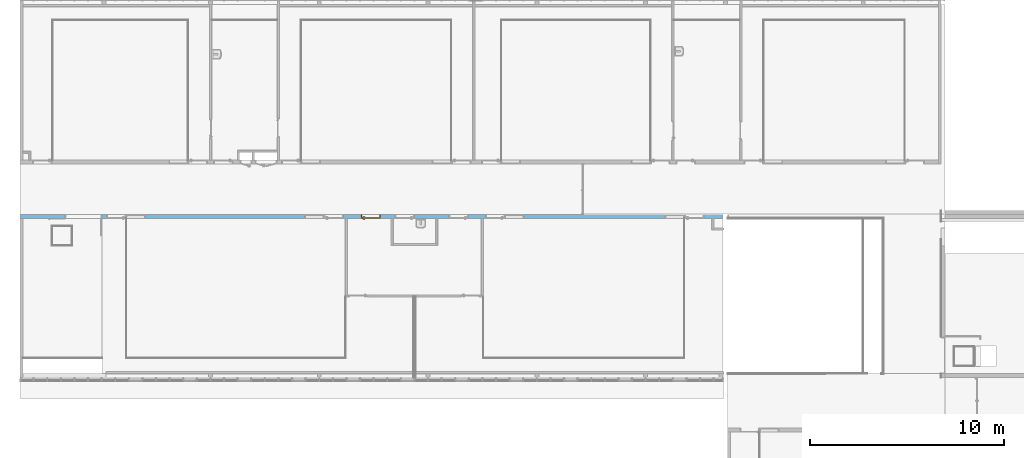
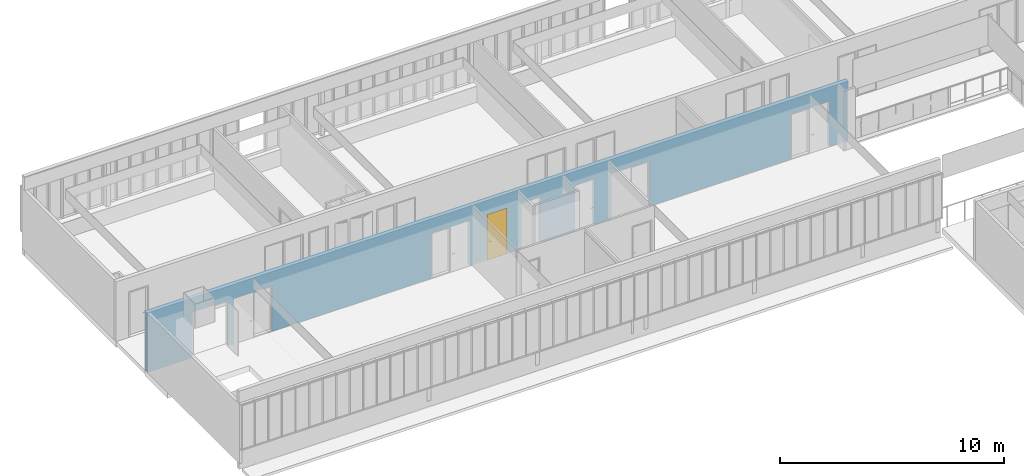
# One storey, part 32 of 87: 1 door, 12 openings, plus 1 element that does not belong to this part.
"""IFC2X3 building model written with IfcOpenShell, lengths in centimetres."""

from ifc_helpers import new_model, entity, si_unit, converted_unit, derived_unit, direction, frame, frame_2d, origin, place, context, subcontext, project, spatial, rectangle, extrude, faceted_brep, source, transform, mapped, material, material_list, layer, layer_set, layer_usage, type_object, type_shapes, element, fill, save


model = new_model("IFC2X3")

# Units and contexts
model_context = context("Model", 3, precision=0.001, world=origin(), true_north=direction((6.12303176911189e-17, 1.0)))
body_context = subcontext(model_context, "Body", "Model", "MODEL_VIEW")
ifc_project = project(units=[si_unit("LENGTHUNIT", "METRE", prefix="CENTI"), si_unit("AREAUNIT", "SQUARE_METRE"), si_unit("VOLUMEUNIT", "CUBIC_METRE"), converted_unit("PLANEANGLEUNIT", "DEGREE", entity("IfcRatioMeasure", 0.0174532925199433), si_unit("PLANEANGLEUNIT", "RADIAN"), dimensions=[0, 0, 0, 0, 0, 0, 0]), si_unit("MASSUNIT", "GRAM", prefix="KILO"), derived_unit("MASSDENSITYUNIT", [(si_unit("MASSUNIT", "GRAM", prefix="KILO"), 1), (si_unit("LENGTHUNIT", "METRE"), -3)]), si_unit("TIMEUNIT", "SECOND"), si_unit("FREQUENCYUNIT", "HERTZ"), si_unit("THERMODYNAMICTEMPERATUREUNIT", "DEGREE_CELSIUS"), derived_unit("THERMALTRANSMITTANCEUNIT", [(si_unit("MASSUNIT", "GRAM", prefix="KILO"), 1), (si_unit("THERMODYNAMICTEMPERATUREUNIT", "KELVIN"), -1), (si_unit("TIMEUNIT", "SECOND"), -3)]), derived_unit("VOLUMETRICFLOWRATEUNIT", [(si_unit("LENGTHUNIT", "METRE"), 3), (si_unit("TIMEUNIT", "SECOND"), -1)]), si_unit("ELECTRICCURRENTUNIT", "AMPERE"), si_unit("ELECTRICVOLTAGEUNIT", "VOLT"), si_unit("POWERUNIT", "WATT"), si_unit("FORCEUNIT", "NEWTON", prefix="KILO"), si_unit("ILLUMINANCEUNIT", "LUX"), si_unit("LUMINOUSFLUXUNIT", "LUMEN"), si_unit("LUMINOUSINTENSITYUNIT", "CANDELA"), derived_unit("USERDEFINED", [(si_unit("MASSUNIT", "GRAM", prefix="KILO"), -1), (si_unit("LENGTHUNIT", "METRE"), -2), (si_unit("TIMEUNIT", "SECOND"), 3), (si_unit("LUMINOUSFLUXUNIT", "LUMEN"), 1)]), derived_unit("LINEARVELOCITYUNIT", [(si_unit("LENGTHUNIT", "METRE"), 1), (si_unit("TIMEUNIT", "SECOND"), -1)]), si_unit("PRESSUREUNIT", "PASCAL"), derived_unit("USERDEFINED", [(si_unit("LENGTHUNIT", "METRE"), -2), (si_unit("MASSUNIT", "GRAM", prefix="KILO"), 1), (si_unit("TIMEUNIT", "SECOND"), -2)])], contexts=[model_context])

# Site, building, storey
site_placement = place(None, frame((-2781.94577612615, 7442.24238424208, 0.0)))
site = spatial("IfcSite", under=ifc_project, at=site_placement, Name="Default", CompositionType="ELEMENT")
building_placement = place(site_placement, origin())
building = spatial("IfcBuilding", under=site, at=building_placement, CompositionType="ELEMENT")
storey_placement = place(building_placement, frame((0.0, 0.0, 774.0)))
storey = spatial("IfcBuildingStorey", under=building, at=storey_placement, Name="TR - N02 - ARCH", CompositionType="ELEMENT", Elevation=774.0)

# Wall, openings, door
ifc_material_1 = material(Name="01 - Maçonnerie")
ifc_layer = layer(ifc_material_1, 20.0)
ifc_layer_set = layer_set([ifc_layer], Name="Mur de base:04 - Structure - béton - 20cm")
ifc_layer_usage = layer_usage(ifc_layer_set, "AXIS2", "NEGATIVE", 10.0)
wall_type = type_object("IfcWallType", Name="Mur de base:04 - Structure - béton - 20cm", PredefinedType="STANDARD", material=ifc_layer_set)
wall_placement = place(storey_placement, frame((-4791.99987760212, -1100.0, 0.0), z_axis=(0.0, 0.0, 1.0), x_axis=(-1.0, 0.0, 0.0)))
wall = element("IfcWallStandardCase", 1, at=wall_placement, inside=storey, type_object=wall_type, material=ifc_layer_usage, Name="Mur de base:04 - Structure - béton - 20cm", ObjectType="Mur de base:04 - Structure - béton - 20cm", context=body_context, shape_type="SweptSolid", body=[
    extrude(rectangle(XDim=3617.50000006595, YDim=20.0000000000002, at=frame_2d((1808.75000003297, -3.99680288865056e-14), x_axis=(-1.0, 0.0))), origin(), (0.0, 0.0, 1.0), 326.0),
])
opening_1_placement = place(wall_placement, frame((3071.50016406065, -10.0, 0.0)))
element("IfcOpeningElement", 2, at=opening_1_placement, cuts=wall, Name="Int. Simple:PV (0.93m x 2.50m):1", ObjectType="Opening", context=body_context, shape_type="SweptSolid", body=[
    extrude(rectangle(XDim=248.500000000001, YDim=99.9999999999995, at=frame_2d((124.250000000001, 49.9999999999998), x_axis=(1.0, 0.0))), frame((0.0, 0.0, 0.0), z_axis=(0.0, 1.0, 0.0), x_axis=(0.0, 0.0, 1.0)), (0.0, 0.0, 1.0), 20.0),
])
opening_2_placement = place(wall_placement, frame((1952.5, -10.0, 0.0)))
element("IfcOpeningElement", 3, at=opening_2_placement, cuts=wall, Name="Int. Simple:PV (0.93m x 2.50m):1", ObjectType="Opening", context=body_context, shape_type="SweptSolid", body=[
    extrude(rectangle(XDim=248.500000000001, YDim=99.9999999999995, at=frame_2d((124.250000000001, 50.0), x_axis=(1.0, 0.0))), frame((0.0, 0.0, 0.0), z_axis=(0.0, 1.0, 0.0), x_axis=(0.0, 0.0, 1.0)), (0.0, 0.0, 1.0), 20.0),
])
opening_3_placement = place(wall_placement, frame((1762.50000000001, -10.0, 0.0)))
opening_3 = element("IfcOpeningElement", 4, at=opening_3_placement, cuts=wall, Name="Int. Simple:PP simple (0.93m x 2.50m):1", ObjectType="Opening", context=body_context, shape_type="SweptSolid", body=[
    extrude(rectangle(XDim=248.500000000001, YDim=99.9999999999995, at=frame_2d((124.250000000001, 50.0), x_axis=(1.0, 0.0))), frame((0.0, 0.0, 0.0), z_axis=(0.0, 1.0, 0.0), x_axis=(0.0, 0.0, 1.0)), (0.0, 0.0, 1.0), 20.0),
])
opening_4_placement = place(wall_placement, frame((1310.5, -10.0, 0.0)))
element("IfcOpeningElement", 5, at=opening_4_placement, cuts=wall, Name="Int. Simple:PP simple (0.93m x 2.50m):1", ObjectType="Opening", context=body_context, shape_type="SweptSolid", body=[
    extrude(rectangle(XDim=248.500000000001, YDim=99.9999999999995, at=frame_2d((124.250000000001, 49.9999999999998), x_axis=(1.0, 0.0))), frame((0.0, 0.0, 0.0), z_axis=(0.0, 1.0, 0.0), x_axis=(0.0, 0.0, 1.0)), (0.0, 0.0, 1.0), 20.0),
])
opening_5_placement = place(wall_placement, frame((1587.5, -10.0, 0.0)))
element("IfcOpeningElement", 6, at=opening_5_placement, cuts=wall, Name="Int. Simple:PP simple (0.93m x 2.50m):1", ObjectType="Opening", context=body_context, shape_type="SweptSolid", body=[
    extrude(rectangle(XDim=248.500000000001, YDim=99.9999999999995, at=frame_2d((124.250000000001, 49.9999999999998), x_axis=(1.0, 0.0))), frame((0.0, 0.0, 0.0), z_axis=(0.0, 1.0, 0.0), x_axis=(0.0, 0.0, 1.0)), (0.0, 0.0, 1.0), 20.0),
])
opening_6_placement = place(wall_placement, frame((1122.5, -10.0, 0.0)))
element("IfcOpeningElement", 7, at=opening_6_placement, cuts=wall, Name="Int. Simple:PV (0.93m x 2.50m):1", ObjectType="Opening", context=body_context, shape_type="SweptSolid", body=[
    extrude(rectangle(XDim=248.500000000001, YDim=99.9999999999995, at=frame_2d((124.250000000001, 49.9999999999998), x_axis=(1.0, 0.0))), frame((0.0, 0.0, 0.0), z_axis=(0.0, 1.0, 0.0), x_axis=(0.0, 0.0, 1.0)), (0.0, 0.0, 1.0), 20.0),
])
opening_7_placement = place(wall_placement, frame((97.5000000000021, -10.0, 0.0)))
element("IfcOpeningElement", 8, at=opening_7_placement, cuts=wall, Name="Int. Simple:PV (0.93m x 2.50m):1", ObjectType="Opening", context=body_context, shape_type="SweptSolid", body=[
    extrude(rectangle(XDim=248.500000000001, YDim=99.9999999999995, at=frame_2d((124.250000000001, 50.0), x_axis=(1.0, 0.0))), frame((0.0, 0.0, 0.0), z_axis=(0.0, 1.0, 0.0), x_axis=(0.0, 0.0, 1.0)), (0.0, 0.0, 1.0), 20.0),
])
opening_8_placement = place(wall_placement, frame((1022.5, -10.0, 0.0)))
element("IfcOpeningElement", 9, at=opening_8_placement, cuts=wall, Name="châssis intérieur vitré:châssis intérieur vitré (h=270) R+1:1", ObjectType="Opening", context=body_context, shape_type="SweptSolid", body=[
    extrude(rectangle(XDim=250.0, YDim=99.9999999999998, at=frame_2d((125.0, 49.9999999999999), x_axis=(1.0, 0.0))), frame((0.0, 0.0, 0.0), z_axis=(0.0, 1.0, 0.0), x_axis=(0.0, 0.0, 1.0)), (0.0, 0.0, 1.0), 20.0),
])
opening_9_placement = place(wall_placement, frame((197.500000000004, -10.0, 0.0)))
element("IfcOpeningElement", 10, at=opening_9_placement, cuts=wall, Name="châssis intérieur vitré:châssis intérieur vitré (h=270) R+1:1", ObjectType="Opening", context=body_context, shape_type="SweptSolid", body=[
    extrude(rectangle(XDim=250.0, YDim=99.9999999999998, at=frame_2d((125.0, 49.9999999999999), x_axis=(1.0, 0.0))), frame((0.0, 0.0, 0.0), z_axis=(0.0, 1.0, 0.0), x_axis=(0.0, 0.0, 1.0)), (0.0, 0.0, 1.0), 20.0),
])
opening_10_placement = place(wall_placement, frame((2052.5, -10.0, 0.0)))
element("IfcOpeningElement", 11, at=opening_10_placement, cuts=wall, Name="châssis intérieur vitré:châssis intérieur vitré (h=270) R+1:1", ObjectType="Opening", context=body_context, shape_type="SweptSolid", body=[
    extrude(rectangle(XDim=250.0, YDim=99.9999999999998, at=frame_2d((125.0, 49.9999999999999), x_axis=(1.0, 0.0))), frame((0.0, 0.0, 0.0), z_axis=(0.0, 1.0, 0.0), x_axis=(0.0, 0.0, 1.0)), (0.0, 0.0, 1.0), 20.0),
])
opening_11_placement = place(wall_placement, frame((2971.50016406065, -10.0, 0.0)))
element("IfcOpeningElement", 12, at=opening_11_placement, cuts=wall, Name="châssis intérieur vitré:châssis intérieur vitré (h=270) R+1:1", ObjectType="Opening", context=body_context, shape_type="SweptSolid", body=[
    extrude(rectangle(XDim=250.0, YDim=99.9999999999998, at=frame_2d((125.0, 49.9999999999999), x_axis=(1.0, 0.0))), frame((0.0, 0.0, 0.0), z_axis=(0.0, 1.0, 0.0), x_axis=(0.0, 0.0, 1.0)), (0.0, 0.0, 1.0), 20.0),
])
opening_12_placement = place(wall_placement, frame((3196.0, -10.0, 0.0)))
element("IfcOpeningElement", 13, at=opening_12_placement, cuts=wall, Name="Int. Double:PP (1.83m x 2.04m):1", ObjectType="Opening", context=body_context, shape_type="SweptSolid", body=[
    extrude(rectangle(XDim=248.500000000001, YDim=190.0, at=frame_2d((124.250000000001, 95.0000000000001), x_axis=(1.0, 0.0))), frame((0.0, 0.0, 0.0), z_axis=(0.0, 1.0, 0.0), x_axis=(0.0, 0.0, 1.0)), (0.0, 0.0, 1.0), 20.0),
])
ifc_material_2 = material(Name="Finition Peinture - Blanc satiné")
ifc_material_3 = material(Name="Bois - Panneau de porte")
ifc_material_4 = material(Name="Bois - Cadre de porte")
ifc_material_list_1 = material_list([ifc_material_2, ifc_material_3, ifc_material_4])
ifc_material_list_2 = material_list([ifc_material_2, ifc_material_3, ifc_material_4])
door_style = type_object("IfcDoorStyle", Name="PP simple (0.93m x 2.50m)", ConstructionType="NOTDEFINED", OperationType="SINGLE_SWING_LEFT", ParameterTakesPrecedence=False, Sizeable=False, material=ifc_material_list_2)
shared_shape = source(origin(), body_context, "Body", "Brep", [
    faceted_brep([(10.5352761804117, -0.500000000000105, 86.6003983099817), (11.5000000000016, -0.500000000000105, 87.0), (11.5000000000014, -0.500000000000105, 108.0), (10.5352761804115, -0.500000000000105, 108.399601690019), (9.50000000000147, -0.500000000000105, 108.535898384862), (8.46472381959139, -0.500000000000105, 108.399601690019), (7.50000000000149, -0.500000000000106, 108.0), (7.50000000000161, -0.500000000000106, 87.0), (8.46472381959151, -0.500000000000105, 86.6003983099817), (9.50000000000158, -0.500000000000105, 86.464101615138), (10.5352761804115, 0.0, 108.399601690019), (11.5000000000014, 0.0, 108.0), (11.5000000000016, 0.0, 87.0), (10.5352761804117, 0.0, 86.6003983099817), (9.50000000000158, 0.0, 86.464101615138), (8.46472381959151, 0.0, 86.6003983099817), (7.50000000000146, 0.0, 87.0), (7.50000000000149, 0.0, 108.0), (8.46472381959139, 0.0, 108.399601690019), (9.50000000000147, 0.0, 108.535898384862)], [[[0, 1, 2, 3, 4, 5, 6, 7, 8, 9]], [[10, 11, 12, 13, 14, 15, 16, 17, 18, 19]], [[16, 15, 8, 7]], [[8, 15, 14, 9]], [[14, 13, 0, 9]], [[13, 12, 1, 0]], [[2, 1, 12, 11]], [[11, 10, 3, 2]], [[3, 10, 19, 4]], [[19, 18, 5, 4]], [[18, 17, 6, 5]], [[7, 6, 17, 16]]]),
    faceted_brep([(10.5352761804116, 4.0, 86.6003983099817), (11.5000000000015, 4.0, 87.0), (11.5000000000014, 4.0, 108.0), (10.5352761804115, 4.0, 108.399601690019), (9.50000000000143, 4.0, 108.535898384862), (8.46472381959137, 4.0, 108.399601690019), (7.50000000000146, 4.0, 108.0), (7.50000000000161, 4.0, 87.0), (8.46472381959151, 4.0, 86.6003983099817), (9.50000000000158, 4.0, 86.464101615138), (10.5352761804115, 4.49999999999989, 108.399601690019), (11.5000000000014, 4.49999999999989, 108.0), (11.5000000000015, 4.49999999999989, 87.0), (10.5352761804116, 4.49999999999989, 86.6003983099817), (9.50000000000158, 4.49999999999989, 86.464101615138), (8.46472381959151, 4.49999999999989, 86.6003983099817), (7.50000000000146, 4.49999999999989, 87.0), (7.50000000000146, 4.49999999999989, 108.0), (8.46472381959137, 4.49999999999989, 108.399601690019), (9.50000000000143, 4.49999999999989, 108.535898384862)], [[[0, 1, 2, 3, 4, 5, 6, 7, 8, 9]], [[10, 11, 12, 13, 14, 15, 16, 17, 18, 19]], [[11, 10, 3, 2]], [[3, 10, 19, 4]], [[19, 18, 5, 4]], [[18, 17, 6, 5]], [[7, 6, 17, 16]], [[16, 15, 8, 7]], [[8, 15, 14, 9]], [[14, 13, 0, 9]], [[13, 12, 1, 0]], [[2, 1, 12, 11]]]),
    faceted_brep([(9.29747013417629, -0.500000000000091, 100.778044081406), (9.70252986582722, -0.500000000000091, 100.778044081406), (10.1000000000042, -0.500000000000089, 100.699999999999), (10.1000000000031, -0.500000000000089, 99.3000000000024), (9.7025298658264, -0.500000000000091, 99.2219559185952), (9.29747013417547, -0.500000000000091, 99.221955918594), (8.8999999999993, -0.500000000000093, 99.2999999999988), (8.89999999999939, -0.500000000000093, 100.7), (8.89999999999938, -3.26509507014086, 100.7), (9.29747013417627, -3.10045754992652, 100.778044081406), (10.9023585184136, -4.70534593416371, 100.778044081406), (11.0701397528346, -4.30028620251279, 100.778044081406), (9.7025298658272, -2.93267631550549, 100.778044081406), (10.1000000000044, -2.76803879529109, 100.7), (10.1000000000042, -2.76803879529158, 99.3000000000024), (9.7025298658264, -2.93267631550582, 99.2219559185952), (11.0701397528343, -4.30028620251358, 99.2219559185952), (10.9023585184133, -4.70534593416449, 99.221955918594), (9.29747013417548, -3.10045754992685, 99.221955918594), (8.89999999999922, -3.26509507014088, 99.2999999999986), (10.7377209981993, -5.10281606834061, 100.7), (11.2347772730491, -3.90281606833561, 100.7), (11.2347772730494, -3.90281606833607, 99.3000000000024), (10.7377209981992, -5.10281606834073, 99.2999999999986), (19.5018640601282, -5.1028160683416, 99.2999999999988), (19.5018640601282, -4.70534593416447, 99.221955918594), (19.5018640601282, -4.30028620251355, 99.2219559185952), (19.5018640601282, -3.90281606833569, 99.3000000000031), (19.5018640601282, -3.90281606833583, 100.7), (19.5018640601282, -4.30028620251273, 100.778044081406), (19.5018640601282, -4.70534593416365, 100.778044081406), (19.5018640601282, -5.10281606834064, 100.699999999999), (14.7307697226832, -5.10281606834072, 100.7), (15.2860019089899, -4.5028160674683, 100.78786867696), (15.3683206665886, -3.9028160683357, 100.7), (15.3683206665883, -3.90281606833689, 99.3000000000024), (15.2860018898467, -4.50281607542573, 99.2121313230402), (14.7307700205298, -5.10281606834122, 99.2999999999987)], [[[0, 1, 2, 3, 4, 5, 6, 7]], [[8, 9, 0, 7]], [[9, 10, 11, 12, 1, 0]], [[12, 13, 2, 1]], [[3, 2, 13, 14]], [[14, 15, 4, 3]], [[15, 16, 17, 18, 5, 4]], [[18, 19, 6, 5]], [[7, 6, 19, 8]], [[20, 10, 9, 8]], [[11, 21, 13, 12]], [[14, 13, 21, 22]], [[22, 16, 15, 14]], [[17, 23, 19, 18]], [[8, 19, 23, 20]], [[24, 25, 26, 27, 28, 29, 30, 31]], [[32, 30, 33]], [[31, 30, 32]], [[10, 20, 32]], [[33, 34, 11]], [[21, 11, 34]], [[34, 29, 28]], [[30, 29, 33]], [[29, 34, 33]], [[10, 32, 33]], [[10, 33, 11]], [[22, 21, 34, 28, 27, 35]], [[35, 26, 36]], [[37, 36, 25]], [[22, 35, 16]], [[35, 27, 26]], [[24, 37, 25]], [[23, 17, 37]], [[37, 17, 36]], [[17, 16, 36]], [[16, 35, 36]], [[25, 36, 26]], [[20, 23, 37, 24, 31, 32]]]),
    faceted_brep([(9.29747013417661, 4.49999999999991, 100.778044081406), (8.89999999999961, 4.4999999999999, 100.7), (8.89999999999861, 4.4999999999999, 99.2999999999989), (9.29747013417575, 4.49999999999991, 99.221955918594), (9.70252986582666, 4.49999999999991, 99.2219559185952), (10.1000000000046, 4.49999999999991, 99.3000000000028), (10.1000000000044, 4.49999999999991, 100.7), (9.70252986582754, 4.49999999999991, 100.778044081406), (10.1000000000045, 6.7485204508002, 99.3000000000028), (10.1000000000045, 6.74852045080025, 100.7), (9.70252986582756, 6.91315797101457, 100.778044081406), (11.083890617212, 8.29451872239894, 100.778044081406), (10.916109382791, 8.69957845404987, 100.778044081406), (9.29747013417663, 7.0809392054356, 100.778044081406), (8.89999999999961, 7.24557672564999, 100.7), (8.89999999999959, 7.2455767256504, 99.2999999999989), (9.29747013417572, 7.08093920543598, 99.221955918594), (10.9161093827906, 8.69957845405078, 99.221955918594), (11.0838906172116, 8.29451872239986, 99.2219559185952), (9.70252986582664, 6.91315797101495, 99.2219559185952), (11.2485281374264, 7.89704858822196, 99.3000000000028), (11.2485281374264, 7.89704858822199, 100.7), (10.7514718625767, 9.09704858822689, 100.7), (10.7514718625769, 9.0970485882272, 99.2999999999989), (19.5045783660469, 7.89704858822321, 99.3000000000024), (19.5045783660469, 8.29451872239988, 99.2219559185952), (19.5045783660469, 8.6995784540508, 99.221955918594), (19.5045783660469, 9.09704858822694, 99.2999999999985), (19.5045783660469, 9.09704858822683, 100.7), (19.5045783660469, 8.69957845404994, 100.778044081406), (19.5045783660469, 8.29451872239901, 100.778044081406), (19.5045783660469, 7.89704858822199, 100.7), (15.3765520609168, 7.89704858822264, 99.3000000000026), (15.3765532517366, 7.89704858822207, 100.7), (15.294234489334, 8.49704858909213, 100.78786867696), (14.7445205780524, 9.09704858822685, 100.7), (14.7445204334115, 9.09704858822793, 99.2999999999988), (15.2942345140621, 8.49704858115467, 99.2121313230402)], [[[0, 1, 2, 3, 4, 5, 6, 7]], [[6, 5, 8, 9]], [[9, 10, 7, 6]], [[10, 11, 12, 13, 0, 7]], [[13, 14, 1, 0]], [[2, 1, 14, 15]], [[15, 16, 3, 2]], [[16, 17, 18, 19, 4, 3]], [[19, 8, 5, 4]], [[9, 8, 20, 21]], [[21, 11, 10, 9]], [[12, 22, 14, 13]], [[15, 14, 22, 23]], [[23, 17, 16, 15]], [[18, 20, 8, 19]], [[24, 25, 26, 27, 28, 29, 30, 31]], [[21, 20, 32, 24, 31, 33]], [[33, 30, 34]], [[35, 34, 29]], [[21, 33, 11]], [[33, 31, 30]], [[28, 35, 29]], [[22, 12, 35]], [[35, 12, 34]], [[12, 11, 34]], [[11, 33, 34]], [[29, 34, 30]], [[22, 35, 28, 27, 36, 23]], [[36, 26, 37]], [[27, 26, 36]], [[17, 23, 36]], [[37, 32, 18]], [[20, 18, 32]], [[32, 25, 24]], [[26, 25, 37]], [[25, 32, 37]], [[17, 36, 37]], [[17, 37, 18]]]),
    faceted_brep([(3.50000000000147, 4.0, 245.0), (96.5000000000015, 4.0, 245.0), (96.5000000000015, 4.0, 0.0), (3.50000000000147, 4.0, 0.0), (3.50000000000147, 0.0, 245.0), (3.50000000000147, 0.0, 0.0), (96.5000000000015, 0.0, 0.0), (96.5000000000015, 0.0, 245.0)], [[[0, 1, 2, 3]], [[4, 5, 6, 7]], [[1, 0, 4, 7]], [[2, 1, 7, 6]], [[3, 2, 6, 5]], [[0, 3, 5, 4]]]),
    faceted_brep([(0.0, 20.0, 0.0), (-1.50000000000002, 20.0, 0.0), (-1.50000000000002, 20.5000000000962, 0.0), (5.0, 20.5000000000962, 0.0), (5.0, 4.0, 0.0), (3.50000000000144, 4.0, 0.0), (3.50000000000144, -0.500000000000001, 0.0), (-1.50000000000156, -0.500000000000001, 0.0), (-1.50000000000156, 0.0, 0.0), (0.0, 0.0, 0.0), (0.0, 0.0, 248.500000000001), (0.0, 20.0, 248.500000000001), (100.0, 20.0, 248.500000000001), (100.0, 20.0, 0.0), (101.5, 20.0, 0.0), (101.5, 20.0, 250.0), (-1.50000000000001, 20.0, 250.0), (5.0, 20.5000000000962, 243.5), (5.0, 4.0, 243.5), (95.0, 4.0, 243.5), (95.0, 4.0, 0.0), (96.499999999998, 4.0, 0.0), (96.499999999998, 4.0, 245.0), (3.50000000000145, 4.0, 245.0), (100.0, 0.0, 248.500000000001), (100.0, 0.0, 0.0), (101.500000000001, 0.0, 0.0), (101.500000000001, -0.500000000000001, 0.0), (96.499999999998, -0.500000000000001, 0.0), (95.0, 20.5000000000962, 0.0), (101.5, 20.5000000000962, 0.0), (95.0, 20.5000000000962, 243.5), (3.50000000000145, -0.500000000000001, 245.0), (96.499999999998, -0.500000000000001, 245.0), (101.500000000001, -0.500000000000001, 250.0), (-1.50000000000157, -0.500000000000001, 250.0), (-1.50000000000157, 0.0, 250.0), (101.500000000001, 0.0, 250.0), (-1.50000000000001, 20.5000000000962, 250.0), (101.5, 20.5000000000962, 250.0)], [[[0, 1, 2, 3, 4, 5, 6, 7, 8, 9]], [[0, 9, 10, 11]], [[1, 0, 11, 12, 13, 14, 15, 16]], [[3, 17, 18, 4]], [[5, 4, 18, 19, 20, 21, 22, 23]], [[12, 24, 25, 13]], [[13, 25, 26, 27, 28, 21, 20, 29, 30, 14]], [[19, 31, 29, 20]], [[11, 10, 24, 12]], [[18, 17, 31, 19]], [[5, 23, 32, 6]], [[7, 6, 32, 33, 28, 27, 34, 35]], [[8, 7, 35, 36]], [[9, 8, 36, 37, 26, 25, 24, 10]], [[2, 1, 16, 38]], [[3, 2, 38, 39, 30, 29, 31, 17]], [[33, 22, 21, 28]], [[37, 34, 27, 26]], [[39, 15, 14, 30]], [[32, 23, 22, 33]], [[36, 35, 34, 37]], [[38, 16, 15, 39]]]),
])
type_shapes(door_style, [shared_shape])
door_placement = place(opening_3_placement, frame((100.0, 20.0, 0.0), z_axis=(0.0, 0.0, 1.0), x_axis=(-1.0, 0.0, 0.0)))
door = element("IfcDoor", 14, at=door_placement, inside=storey, type_object=door_style, material=ifc_material_list_1, Name="Int. Simple:PP simple (0.93m x 2.50m)", ObjectType="Int. Simple:PP simple (0.93m x 2.50m)", OverallHeight=248.500000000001, OverallWidth=99.9999999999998, context=body_context, shape_type="MappedRepresentation", body=[
    mapped(shared_shape, transform((0.0, 0.0, 0.0), scale=1.0)),
])
fill(opening_3, door)

save(model, "model.ifc")
